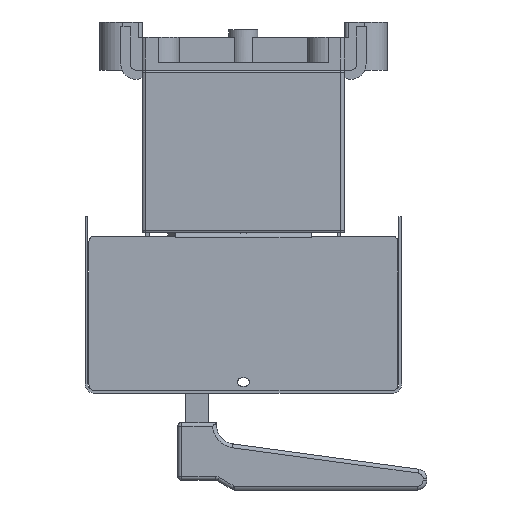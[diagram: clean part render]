
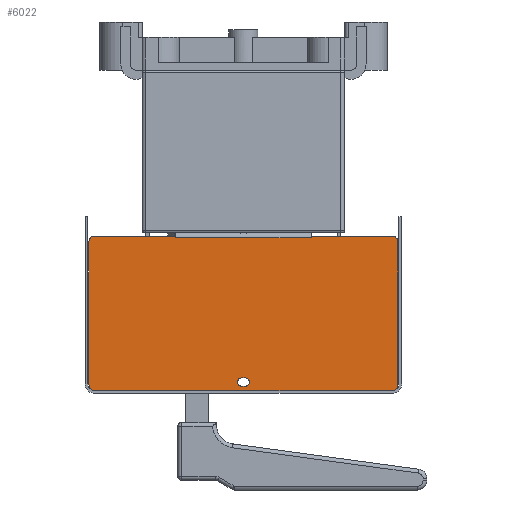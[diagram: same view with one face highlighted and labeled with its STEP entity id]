
A CAD part, left-side view. The second image highlights one B-rep face of the part: STEP entity #6022.
In plain terms, the highlighted planar face has unit normal (-1, 0, 0).
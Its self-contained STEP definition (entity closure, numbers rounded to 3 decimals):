
#643=FACE_BOUND('',#9112,.T.);
#644=FACE_BOUND('',#9113,.T.);
#2236=LINE('',#34032,#4493);
#2243=LINE('',#34050,#4500);
#2249=LINE('',#34067,#4506);
#2253=LINE('',#34080,#4510);
#2258=LINE('',#34097,#4515);
#2259=LINE('',#34102,#4516);
#2264=LINE('',#34115,#4521);
#2265=LINE('',#34117,#4522);
#2266=LINE('',#34119,#4523);
#2267=LINE('',#34121,#4524);
#2268=LINE('',#34123,#4525);
#2269=LINE('',#34125,#4526);
#4493=VECTOR('',#27584,1.);
#4500=VECTOR('',#27597,1.);
#4506=VECTOR('',#27611,1.);
#4510=VECTOR('',#27623,1.);
#4515=VECTOR('',#27642,1.);
#4516=VECTOR('',#27651,1.);
#4521=VECTOR('',#27664,1.);
#4522=VECTOR('',#27667,1.);
#4523=VECTOR('',#27668,1.);
#4524=VECTOR('',#27669,1.);
#4525=VECTOR('',#27670,1.);
#4526=VECTOR('',#27671,1.);
#6022=ADVANCED_FACE('',(#643,#644),#6962,.T.);
#6962=PLANE('',#23077);
#9112=EDGE_LOOP('',(#13367,#13368,#13369,#13370,#13371,#13372,#13373,#13374,
#13375,#13376,#13377,#13378,#13379,#13380));
#9113=EDGE_LOOP('',(#13381,#13382,#13383,#13384));
#13367=ORIENTED_EDGE('',*,*,#19883,.F.);
#13368=ORIENTED_EDGE('',*,*,#19884,.T.);
#13369=ORIENTED_EDGE('',*,*,#19885,.T.);
#13370=ORIENTED_EDGE('',*,*,#19886,.T.);
#13371=ORIENTED_EDGE('',*,*,#19887,.F.);
#13372=ORIENTED_EDGE('',*,*,#19875,.T.);
#13373=ORIENTED_EDGE('',*,*,#19880,.T.);
#13374=ORIENTED_EDGE('',*,*,#19863,.T.);
#13375=ORIENTED_EDGE('',*,*,#19866,.T.);
#13376=ORIENTED_EDGE('',*,*,#19841,.T.);
#13377=ORIENTED_EDGE('',*,*,#19869,.T.);
#13378=ORIENTED_EDGE('',*,*,#19872,.T.);
#13379=ORIENTED_EDGE('',*,*,#19874,.T.);
#13380=ORIENTED_EDGE('',*,*,#19849,.T.);
#13381=ORIENTED_EDGE('',*,*,#19853,.T.);
#13382=ORIENTED_EDGE('',*,*,#19857,.T.);
#13383=ORIENTED_EDGE('',*,*,#19860,.T.);
#13384=ORIENTED_EDGE('',*,*,#19882,.T.);
#16840=VERTEX_POINT('',#32861);
#16885=VERTEX_POINT('',#32958);
#17169=VERTEX_POINT('',#34049);
#17170=VERTEX_POINT('',#34051);
#17173=VERTEX_POINT('',#34058);
#17174=VERTEX_POINT('',#34060);
#17176=VERTEX_POINT('',#34066);
#17178=VERTEX_POINT('',#34072);
#17181=VERTEX_POINT('',#34079);
#17182=VERTEX_POINT('',#34081);
#17184=VERTEX_POINT('',#34090);
#17186=VERTEX_POINT('',#34096);
#17187=VERTEX_POINT('',#34103);
#17188=VERTEX_POINT('',#34104);
#17191=VERTEX_POINT('',#34118);
#17192=VERTEX_POINT('',#34120);
#17193=VERTEX_POINT('',#34122);
#17194=VERTEX_POINT('',#34124);
#19841=EDGE_CURVE('',#16840,#16885,#2236,.T.);
#19849=EDGE_CURVE('',#17170,#17169,#2243,.T.);
#19853=EDGE_CURVE('',#17174,#17173,#21546,.T.);
#19857=EDGE_CURVE('',#17173,#17176,#2249,.T.);
#19860=EDGE_CURVE('',#17176,#17178,#21548,.T.);
#19863=EDGE_CURVE('',#17182,#17181,#2253,.T.);
#19866=EDGE_CURVE('',#17181,#16840,#21550,.T.);
#19869=EDGE_CURVE('',#16885,#17184,#21552,.T.);
#19872=EDGE_CURVE('',#17184,#17186,#2258,.T.);
#19874=EDGE_CURVE('',#17186,#17170,#21554,.T.);
#19875=EDGE_CURVE('',#17187,#17188,#2259,.T.);
#19880=EDGE_CURVE('',#17188,#17182,#21556,.T.);
#19882=EDGE_CURVE('',#17178,#17174,#2264,.T.);
#19883=EDGE_CURVE('',#17191,#17169,#2265,.T.);
#19884=EDGE_CURVE('',#17191,#17192,#2266,.T.);
#19885=EDGE_CURVE('',#17192,#17193,#2267,.T.);
#19886=EDGE_CURVE('',#17193,#17194,#2268,.T.);
#19887=EDGE_CURVE('',#17187,#17194,#2269,.T.);
#21546=CIRCLE('',#23055,2.1);
#21548=CIRCLE('',#23059,2.1);
#21550=CIRCLE('',#23063,3.);
#21552=CIRCLE('',#23066,3.);
#21554=CIRCLE('',#23070,3.);
#21556=CIRCLE('',#23074,3.);
#23055=AXIS2_PLACEMENT_3D('',#34059,#27604,#27605);
#23059=AXIS2_PLACEMENT_3D('',#34073,#27617,#27618);
#23063=AXIS2_PLACEMENT_3D('',#34085,#27629,#27630);
#23066=AXIS2_PLACEMENT_3D('',#34091,#27636,#27637);
#23070=AXIS2_PLACEMENT_3D('',#34100,#27647,#27648);
#23074=AXIS2_PLACEMENT_3D('',#34112,#27659,#27660);
#23077=AXIS2_PLACEMENT_3D('',#34126,#27672,#27673);
#27584=DIRECTION('',(0.,-1.,0.));
#27597=DIRECTION('',(0.,1.,0.));
#27604=DIRECTION('',(1.,0.,0.));
#27605=DIRECTION('',(0.,1.,0.));
#27611=DIRECTION('',(0.,-1.,0.));
#27617=DIRECTION('',(1.,0.,0.));
#27618=DIRECTION('',(0.,1.,0.));
#27623=DIRECTION('',(0.,0.,-1.));
#27629=DIRECTION('',(-1.,0.,0.));
#27630=DIRECTION('',(0.,1.,0.));
#27636=DIRECTION('',(-1.,0.,0.));
#27637=DIRECTION('',(0.,1.,0.));
#27642=DIRECTION('',(0.,0.,1.));
#27647=DIRECTION('',(-1.,0.,0.));
#27648=DIRECTION('',(0.,1.,0.));
#27651=DIRECTION('',(0.,1.,0.));
#27659=DIRECTION('',(-1.,0.,0.));
#27660=DIRECTION('',(0.,1.,0.));
#27664=DIRECTION('',(0.,1.,0.));
#27667=DIRECTION('',(0.,0.,1.));
#27668=DIRECTION('',(0.,1.,0.));
#27669=DIRECTION('',(0.,1.,0.));
#27670=DIRECTION('',(0.,1.,0.));
#27671=DIRECTION('',(0.,0.,-1.));
#27672=DIRECTION('',(-1.,0.,0.));
#27673=DIRECTION('',(0.,-1.,0.));
#32861=CARTESIAN_POINT('',(-189.3,77.,-165.8));
#32958=CARTESIAN_POINT('',(-189.3,-77.,-165.8));
#34032=CARTESIAN_POINT('',(-189.3,77.,-165.8));
#34049=CARTESIAN_POINT('',(-189.3,-35.002,-85.8));
#34050=CARTESIAN_POINT('',(-189.3,-77.,-85.8));
#34051=CARTESIAN_POINT('',(-189.3,-77.,-85.8));
#34058=CARTESIAN_POINT('',(-189.3,1.,-159.3));
#34059=CARTESIAN_POINT('',(-189.3,1.,-161.4));
#34060=CARTESIAN_POINT('',(-189.3,1.,-163.5));
#34066=CARTESIAN_POINT('',(-189.3,-1.,-159.3));
#34067=CARTESIAN_POINT('',(-189.3,1.,-159.3));
#34072=CARTESIAN_POINT('',(-189.3,-1.,-163.5));
#34073=CARTESIAN_POINT('',(-189.3,-1.,-161.4));
#34079=CARTESIAN_POINT('',(-189.3,80.,-162.8));
#34080=CARTESIAN_POINT('',(-189.3,80.,-88.8));
#34081=CARTESIAN_POINT('',(-189.3,80.,-88.8));
#34085=CARTESIAN_POINT('',(-189.3,77.,-162.8));
#34090=CARTESIAN_POINT('',(-189.3,-80.,-162.8));
#34091=CARTESIAN_POINT('',(-189.3,-77.,-162.8));
#34096=CARTESIAN_POINT('',(-189.3,-80.,-88.8));
#34097=CARTESIAN_POINT('',(-189.3,-80.,-162.8));
#34100=CARTESIAN_POINT('',(-189.3,-77.,-88.8));
#34102=CARTESIAN_POINT('',(-189.3,-77.,-85.8));
#34103=CARTESIAN_POINT('',(-189.3,35.002,-85.8));
#34104=CARTESIAN_POINT('',(-189.3,77.,-85.8));
#34112=CARTESIAN_POINT('',(-189.3,77.,-88.8));
#34115=CARTESIAN_POINT('',(-189.3,-1.,-163.5));
#34117=CARTESIAN_POINT('',(-189.3,-35.002,-162.8));
#34118=CARTESIAN_POINT('',(-189.3,-35.002,-86.8));
#34119=CARTESIAN_POINT('',(-189.3,77.,-86.8));
#34120=CARTESIAN_POINT('',(-189.3,-35.,-86.8));
#34121=CARTESIAN_POINT('',(-189.3,50.5,-86.8));
#34122=CARTESIAN_POINT('',(-189.3,35.,-86.8));
#34123=CARTESIAN_POINT('',(-189.3,77.,-86.8));
#34124=CARTESIAN_POINT('',(-189.3,35.002,-86.8));
#34125=CARTESIAN_POINT('',(-189.3,35.002,-162.8));
#34126=CARTESIAN_POINT('',(-189.3,77.,-162.8));
